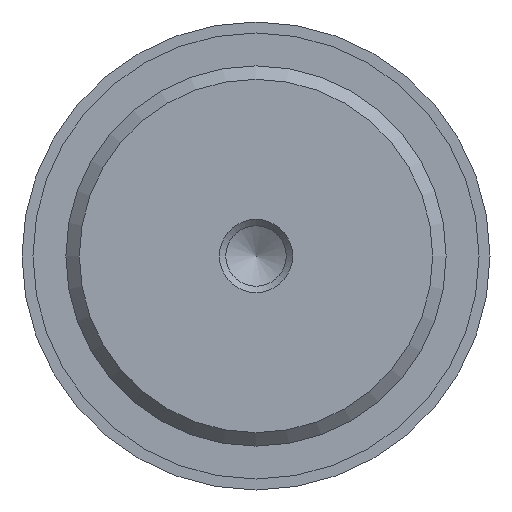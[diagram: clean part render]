
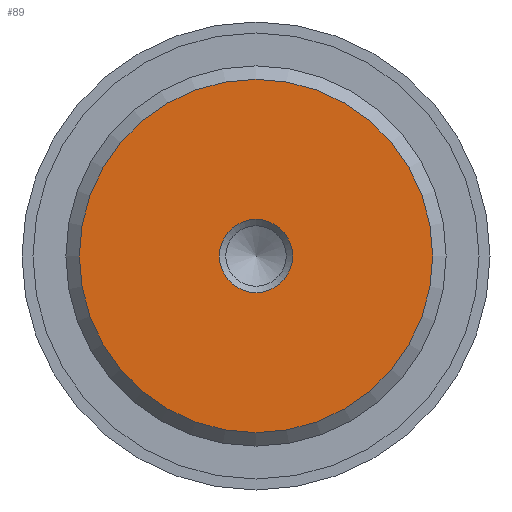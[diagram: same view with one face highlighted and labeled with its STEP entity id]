
A CAD part, front view. The second image highlights one B-rep face of the part: STEP entity #89.
In plain terms, the highlighted planar face has unit normal (0, -1, 0).
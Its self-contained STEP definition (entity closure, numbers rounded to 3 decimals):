
#89 = ADVANCED_FACE( '', ( #173, #174 ), #175, .F. );
#173 = FACE_BOUND( '', #312, .T. );
#174 = FACE_OUTER_BOUND( '', #313, .T. );
#175 = PLANE( '', #314 );
#312 = EDGE_LOOP( '', ( #539 ) );
#313 = EDGE_LOOP( '', ( #540 ) );
#314 = AXIS2_PLACEMENT_3D( '', #541, #542, #543 );
#539 = ORIENTED_EDGE( '', *, *, #948, .F. );
#540 = ORIENTED_EDGE( '', *, *, #952, .T. );
#541 = CARTESIAN_POINT( '', ( 12.08, 0., 0. ) );
#542 = DIRECTION( '', ( 0., 1., 0. ) );
#543 = DIRECTION( '', ( 0., 0., 1. ) );
#948 = EDGE_CURVE( '', #1136, #1136, #1137, .T. );
#952 = EDGE_CURVE( '', #1142, #1142, #1143, .T. );
#1136 = VERTEX_POINT( '', #1468 );
#1137 = CIRCLE( '', #1469, 2.5 );
#1142 = VERTEX_POINT( '', #1474 );
#1143 = CIRCLE( '', #1475, 12.08 );
#1468 = CARTESIAN_POINT( '', ( 2.5, 0., 0. ) );
#1469 = AXIS2_PLACEMENT_3D( '', #1751, #1752, #1753 );
#1474 = CARTESIAN_POINT( '', ( 0., 0., -12.08 ) );
#1475 = AXIS2_PLACEMENT_3D( '', #1760, #1761, #1762 );
#1751 = CARTESIAN_POINT( '', ( 0., 0., 0. ) );
#1752 = DIRECTION( '', ( 0., -1., 0. ) );
#1753 = DIRECTION( '', ( 1., 0., 0. ) );
#1760 = CARTESIAN_POINT( '', ( 0., 0., 0. ) );
#1761 = DIRECTION( '', ( 0., -1., 0. ) );
#1762 = DIRECTION( '', ( 0., 0., -1. ) );
